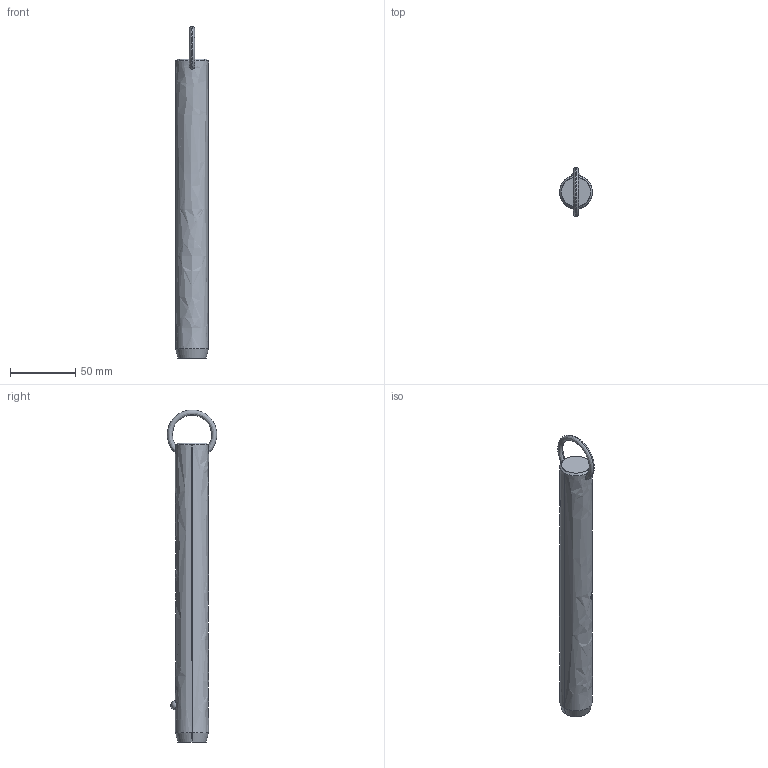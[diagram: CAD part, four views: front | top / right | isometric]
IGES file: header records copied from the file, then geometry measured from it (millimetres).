
Start section: SolidWorks IGES file using analytic representation for surfaces
Global section: file name: C:\Users\liam_\OneDrive\Documents\WORK\Work for WixRoyd\Job Files\J-00019 - Matt Davis CAD Checking\04. CAD Drawings\automotion20190605\P1250.2_v2\P1250.2_v2_20190729_IGES\P1250.100-730.igs; native system: SolidWorks 2017; preprocessor: SolidWorks 2017; author: liam_; date: 190730.174917; units: millimetre
Bounding box: 25.4 x 38.09 x 255.2 mm (x, y, z)
Surface area: 20110.6 mm2 (no closed solid volume)
Topology: 0 solids, 0 shells, 12 faces, 298 edges, 296 vertices
Faces by surface type: revolution 8, bspline 4
